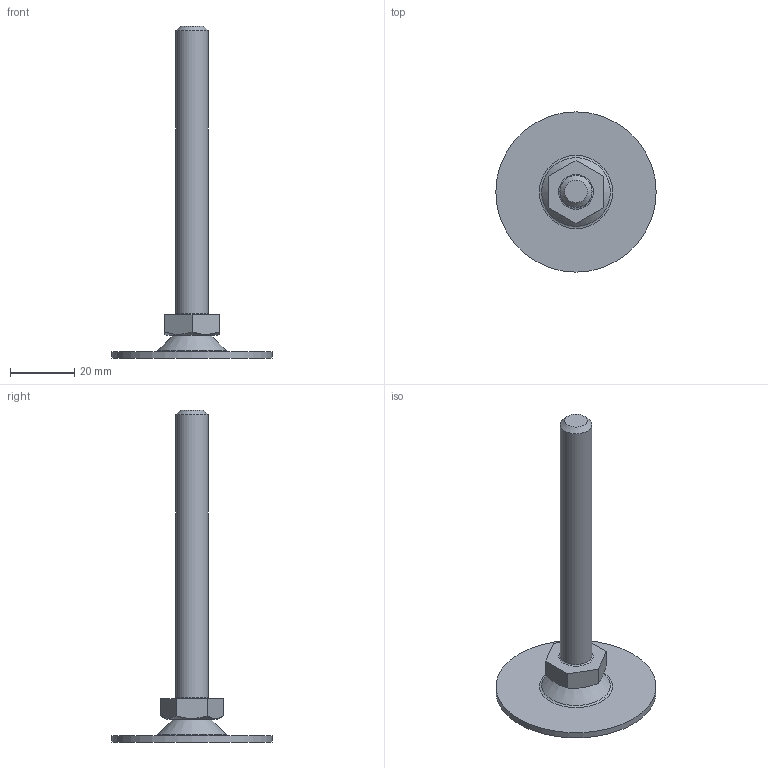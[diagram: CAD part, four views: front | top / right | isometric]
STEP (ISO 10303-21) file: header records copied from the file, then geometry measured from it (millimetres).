
FILE_DESCRIPTION(('STEP AP203'), '1');
FILE_NAME('A00050.1051016', '', ('UNSPECIFIED'), ('UNSPECIFIED'), 'C3D Converter', 'C3D Toolkit', '');
FILE_SCHEMA(('CONFIG_CONTROL_DESIGN'));
Length unit declared in the file: millimetre
Products named in the file (4): A00050.1051090; A00050.1050
Assembly tree (3 placements, depth 2):
  A00050.1051090
    A00050.1050
    (unnamed)
    (unnamed)
Bounding box: 50 x 50 x 103.52 mm (x, y, z)
Volume: 12744.8 mm3; surface area: 8532.7 mm2
Topology: 3 solids, 3 shells, 58 faces, 130 edges, 82 vertices
Faces by surface type: plane 28, torus 8, bspline 8, cone 7, cylinder 6, sphere 1
Full cylindrical faces by diameter (mm): 3.3 x1, 4 x1, 4.5 x1, 8 x1, 10 x1, 50 x1
Entity records: 2171 total; most frequent: CARTESIAN_POINT 784, DIRECTION 242, ORIENTED_EDGE 214, EDGE_CURVE 107, AXIS2_PLACEMENT_3D 95, EDGE_LOOP 86, VERTEX_POINT 81, ADVANCED_FACE 58
